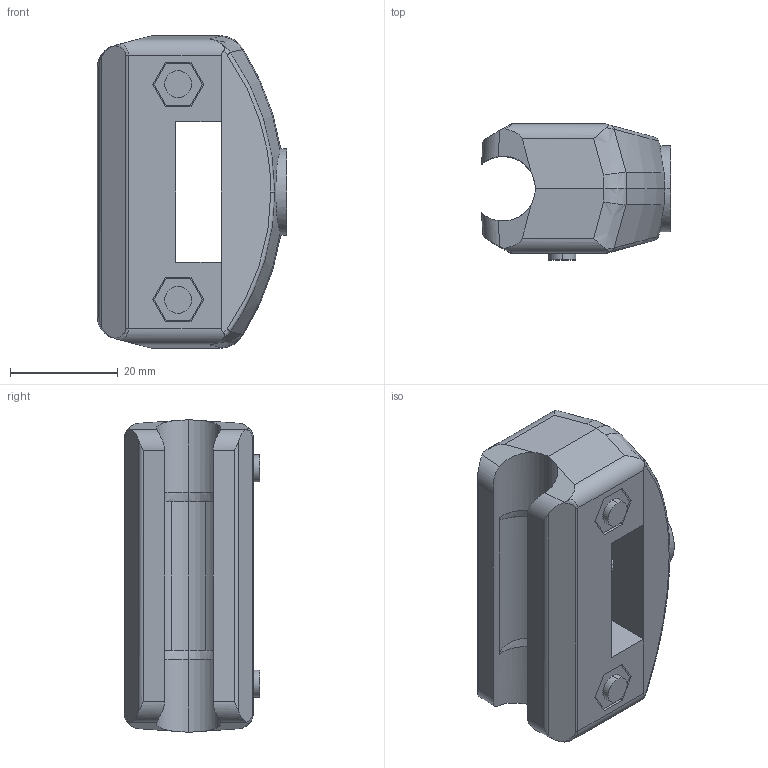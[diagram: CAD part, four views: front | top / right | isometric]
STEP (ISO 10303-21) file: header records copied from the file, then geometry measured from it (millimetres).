
FILE_DESCRIPTION (( 'STEP AP214' ), '1' );
FILE_NAME ('EL 72.step', '2017-04-05T07:36:18', ( '' ), ( '' ), 'SwSTEP 2.0', 'SolidWorks 2015', '' );
FILE_SCHEMA (( 'AUTOMOTIVE_DESIGN' ));
Length unit declared in the file: millimetre
Products named in the file (1): EL 72
Bounding box: 35.1 x 25.2 x 58 mm (x, y, z)
Volume: 27784.7 mm3; surface area: 14258.8 mm2
Topology: 7 solids, 7 shells, 223 faces, 580 edges, 371 vertices
Faces by surface type: plane 134, cylinder 52, bspline 26, cone 11
Entity records: 7836 total; most frequent: CARTESIAN_POINT 2520, ORIENTED_EDGE 1152, DIRECTION 979, EDGE_CURVE 576, VERTEX_POINT 371, VECTOR 347, LINE 347, AXIS2_PLACEMENT_3D 316
